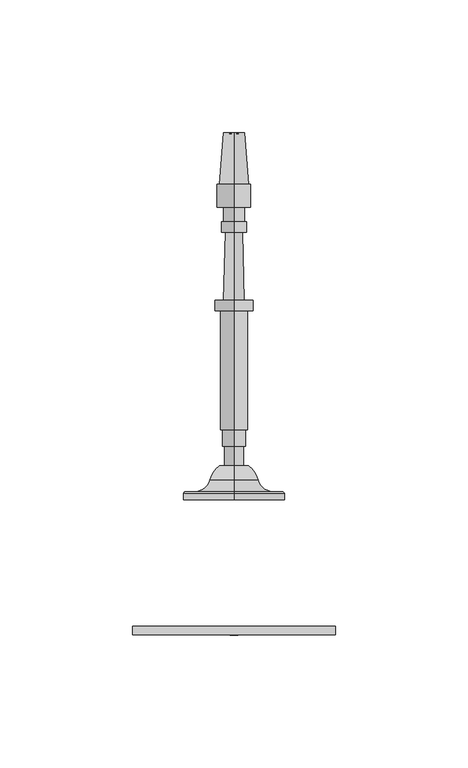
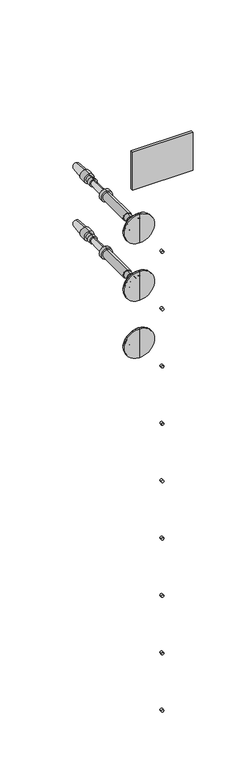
"""IFC4 building model written with IfcOpenShell, lengths in millimetres: railing geometry, RAILEASY CABLE RAILING CORNER TENSIONERS STAIR."""

from ifc_helpers import new_model, si_unit, point, frame, frame_2d, origin, place, context, project, spatial, polyline, circle_curve, ellipse_curve, trimmed, segment, composite_curve, outline, extrude, source, transform, mapped, element, save
from ifc_brep_helpers import plane_surface, cylinder_surface, revolved_surface, advanced_brep


def railing_0356c640(model_context):
    return source(origin(), model_context, "Body", "SolidModel", [
        extrude(outline(polyline([(4135.5568095, 16704.7487645), (4059.3568095, 16704.7487645), (4059.3568095, 16707.9237645), (4135.5568095, 16707.9237645), (4135.5568095, 16704.7487645)])), frame((0.0, 0.0, 33390.9789063), z_axis=(0.0, 0.0, 1.0), x_axis=(1.0, 0.0, 0.0)), (0.0, 0.0, 1.0), 50.8),
        extrude(outline(composite_curve([segment(trimmed(circle_curve(frame_2d((33295.7289062, 4097.4568095)), 1.5379197), [point((33295.7289062, 4098.9947293))], [point((33295.7289062, 4095.9188898))], False, "CARTESIAN"), True, "CONTINUOUS"), segment(trimmed(circle_curve(frame_2d((33295.7289062, 4097.4568095)), 1.5379197), [point((33295.7289062, 4095.9188898))], [point((33295.7289062, 4098.9947293))], False, "CARTESIAN"), True, "CONTINUOUS")], self_intersect=False)), frame((0.0, 16704.7487645, 0.0), z_axis=(0.0, 1.0, 0.0), x_axis=(0.0, 0.0, 1.0)), (0.0, 0.0, 1.0), 3.175),
        extrude(outline(composite_curve([segment(trimmed(circle_curve(frame_2d((33219.5289063, 4097.4568095)), 1.5379197), [point((33219.5289063, 4098.9947293))], [point((33219.5289063, 4095.9188898))], False, "CARTESIAN"), True, "CONTINUOUS"), segment(trimmed(circle_curve(frame_2d((33219.5289063, 4097.4568095)), 1.5379197), [point((33219.5289063, 4095.9188898))], [point((33219.5289063, 4098.9947293))], False, "CARTESIAN"), True, "CONTINUOUS")], self_intersect=False)), frame((0.0, 16704.7487645, 0.0), z_axis=(0.0, 1.0, 0.0), x_axis=(0.0, 0.0, 1.0)), (0.0, 0.0, 1.0), 3.175),
        extrude(outline(composite_curve([segment(trimmed(circle_curve(frame_2d((33143.3289062, 4097.4568095)), 1.5379197), [point((33143.3289062, 4098.9947293))], [point((33143.3289062, 4095.9188898))], False, "CARTESIAN"), True, "CONTINUOUS"), segment(trimmed(circle_curve(frame_2d((33143.3289062, 4097.4568095)), 1.5379197), [point((33143.3289062, 4095.9188898))], [point((33143.3289062, 4098.9947293))], False, "CARTESIAN"), True, "CONTINUOUS")], self_intersect=False)), frame((0.0, 16704.7487645, 0.0), z_axis=(0.0, 1.0, 0.0), x_axis=(0.0, 0.0, 1.0)), (0.0, 0.0, 1.0), 3.175),
        extrude(outline(composite_curve([segment(trimmed(circle_curve(frame_2d((33067.1289062, 4097.4568095)), 1.5379197), [point((33067.1289062, 4098.9947293))], [point((33067.1289062, 4095.9188898))], False, "CARTESIAN"), True, "CONTINUOUS"), segment(trimmed(circle_curve(frame_2d((33067.1289062, 4097.4568095)), 1.5379197), [point((33067.1289062, 4095.9188898))], [point((33067.1289062, 4098.9947293))], False, "CARTESIAN"), True, "CONTINUOUS")], self_intersect=False)), frame((0.0, 16704.7487645, 0.0), z_axis=(0.0, 1.0, 0.0), x_axis=(0.0, 0.0, 1.0)), (0.0, 0.0, 1.0), 3.175),
        extrude(outline(composite_curve([segment(trimmed(circle_curve(frame_2d((32990.9289062, 4097.4568095)), 1.5379197), [point((32990.9289062, 4098.9947293))], [point((32990.9289062, 4095.9188898))], False, "CARTESIAN"), True, "CONTINUOUS"), segment(trimmed(circle_curve(frame_2d((32990.9289062, 4097.4568095)), 1.5379197), [point((32990.9289062, 4095.9188898))], [point((32990.9289062, 4098.9947293))], False, "CARTESIAN"), True, "CONTINUOUS")], self_intersect=False)), frame((0.0, 16704.7487645, 0.0), z_axis=(0.0, 1.0, 0.0), x_axis=(0.0, 0.0, 1.0)), (0.0, 0.0, 1.0), 3.175),
        extrude(outline(composite_curve([segment(trimmed(circle_curve(frame_2d((32914.7289062, 4097.4568095)), 1.5379197), [point((32914.7289062, 4098.9947293))], [point((32914.7289062, 4095.9188898))], False, "CARTESIAN"), True, "CONTINUOUS"), segment(trimmed(circle_curve(frame_2d((32914.7289062, 4097.4568095)), 1.5379197), [point((32914.7289062, 4095.9188898))], [point((32914.7289062, 4098.9947293))], False, "CARTESIAN"), True, "CONTINUOUS")], self_intersect=False)), frame((0.0, 16704.7487645, 0.0), z_axis=(0.0, 1.0, 0.0), x_axis=(0.0, 0.0, 1.0)), (0.0, 0.0, 1.0), 3.175),
        extrude(outline(composite_curve([segment(trimmed(circle_curve(frame_2d((32838.5289063, 4097.4568095)), 1.5379197), [point((32838.5289063, 4098.9947293))], [point((32838.5289063, 4095.9188898))], False, "CARTESIAN"), True, "CONTINUOUS"), segment(trimmed(circle_curve(frame_2d((32838.5289063, 4097.4568095)), 1.5379197), [point((32838.5289063, 4095.9188898))], [point((32838.5289063, 4098.9947293))], False, "CARTESIAN"), True, "CONTINUOUS")], self_intersect=False)), frame((0.0, 16704.7487645, 0.0), z_axis=(0.0, 1.0, 0.0), x_axis=(0.0, 0.0, 1.0)), (0.0, 0.0, 1.0), 3.175),
        extrude(outline(composite_curve([segment(trimmed(circle_curve(frame_2d((32762.3289062, 4097.4568095)), 1.5379197), [point((32762.3289062, 4098.9947293))], [point((32762.3289062, 4095.9188898))], False, "CARTESIAN"), True, "CONTINUOUS"), segment(trimmed(circle_curve(frame_2d((32762.3289062, 4097.4568095)), 1.5379197), [point((32762.3289062, 4095.9188898))], [point((32762.3289062, 4098.9947293))], False, "CARTESIAN"), True, "CONTINUOUS")], self_intersect=False)), frame((0.0, 16704.7487645, 0.0), z_axis=(0.0, 1.0, 0.0), x_axis=(0.0, 0.0, 1.0)), (0.0, 0.0, 1.0), 3.175),
        extrude(outline(composite_curve([segment(trimmed(circle_curve(frame_2d((32686.1289062, 4097.4568095)), 1.5379197), [point((32686.1289062, 4098.9947293))], [point((32686.1289062, 4095.9188898))], False, "CARTESIAN"), True, "CONTINUOUS"), segment(trimmed(circle_curve(frame_2d((32686.1289062, 4097.4568095)), 1.5379197), [point((32686.1289062, 4095.9188898))], [point((32686.1289062, 4098.9947293))], False, "CARTESIAN"), True, "CONTINUOUS")], self_intersect=False)), frame((0.0, 16704.7487645, 0.0), z_axis=(0.0, 1.0, 0.0), x_axis=(0.0, 0.0, 1.0)), (0.0, 0.0, 1.0), 3.175),
        advanced_brep(
        [(4097.4568095, 16755.5660637, 33296.0001631), (4097.4568095, 16755.5660637, 33315.0501631), (4097.4568095, 16755.5660637, 33276.9501631), (4097.4568095, 16768.2587003, 33290.4769785), (4097.4568095, 16768.2587003, 33301.5233478), (4097.4568095, 16768.2587003, 33296.0001631), (4097.4568095, 16762.9826039, 33286.8720381), (4097.4568095, 16762.9826039, 33305.1282881), (4097.4568095, 16758.6169789, 33281.2458254), (4097.4568095, 16758.6169789, 33310.7545009), (4097.4568095, 16758.6169789, 33277.3762941), (4097.4568095, 16758.6169789, 33314.6240321), (4097.4568095, 16757.9473137, 33276.9501631), (4097.4568095, 16757.9473137, 33315.0501631)],
        [
            (0, 1),
            (1, 2, circle_curve(frame((4097.4568095, 16755.5660637, 33296.0001631), z_axis=(0.0, -1.0, 0.0), x_axis=(0.0, 0.0, 1.0)), 19.05)),
            (2, 0),
            (2, 1, circle_curve(frame((4097.4568095, 16755.5660637, 33296.0001631), z_axis=(0.0, -1.0, 0.0), x_axis=(0.0, 0.0, 1.0)), 19.05)),
            (3, 4, circle_curve(frame((4097.4568095, 16768.2587003, 33296.0001631), z_axis=(0.0, 1.0, 0.0), x_axis=(0.0, 0.0, 1.0)), 5.5231846)),
            (4, 5),
            (5, 3),
            (4, 3, circle_curve(frame((4097.4568095, 16768.2587003, 33296.0001631), z_axis=(0.0, 1.0, 0.0), x_axis=(0.0, 0.0, 1.0)), 5.5231846)),
            (6, 7, circle_curve(frame((4097.4568095, 16762.9826039, 33296.0001631), z_axis=(0.0, 1.0, 0.0), x_axis=(0.0, 0.0, 1.0)), 9.128125)),
            (7, 4, circle_curve(frame((4097.4568095, 16760.6581952, 33296.0628958), z_axis=(-1.0, 0.0, 0.0), x_axis=(0.0, 1.0, 0.0)), 9.3586438)),
            (3, 6, circle_curve(frame((4097.4568095, 16760.6581952, 33295.9374304), z_axis=(-1.0, 0.0, 0.0), x_axis=(0.0, 1.0, 0.0)), 9.3586438)),
            (7, 6, circle_curve(frame((4097.4568095, 16762.9826039, 33296.0001631), z_axis=(0.0, 1.0, 0.0), x_axis=(0.0, 0.0, 1.0)), 9.128125)),
            (8, 9, circle_curve(frame((4097.4568095, 16758.6169789, 33296.0001631), z_axis=(0.0, 1.0, 0.0), x_axis=(0.0, 0.0, 1.0)), 14.7543378)),
            (9, 7, circle_curve(frame((4097.4568095, 16764.4251909, 33310.7545009), z_axis=(1.0, 0.0, 0.0), x_axis=(0.0, 1.0, 0.0)), 5.8082121)),
            (6, 8, circle_curve(frame((4097.4568095, 16764.4251909, 33281.2458254), z_axis=(1.0, 0.0, 0.0), x_axis=(0.0, 1.0, 0.0)), 5.8082121)),
            (9, 8, circle_curve(frame((4097.4568095, 16758.6169789, 33296.0001631), z_axis=(0.0, 1.0, 0.0), x_axis=(0.0, 0.0, 1.0)), 14.7543378)),
            (10, 11, circle_curve(frame((4097.4568095, 16758.6169789, 33296.0001631), z_axis=(0.0, 1.0, 0.0), x_axis=(0.0, 0.0, 1.0)), 18.623869)),
            (11, 9),
            (8, 10),
            (11, 10, circle_curve(frame((4097.4568095, 16758.6169789, 33296.0001631), z_axis=(0.0, 1.0, 0.0), x_axis=(0.0, 0.0, 1.0)), 18.623869)),
            (12, 13, circle_curve(frame((4097.4568095, 16757.9473137, 33296.0001631), z_axis=(0.0, 1.0, 0.0), x_axis=(0.0, 0.0, 1.0)), 19.05)),
            (13, 11),
            (10, 12),
            (13, 12, circle_curve(frame((4097.4568095, 16757.9473137, 33296.0001631), z_axis=(0.0, 1.0, 0.0), x_axis=(0.0, 0.0, 1.0)), 19.05)),
            (1, 13),
            (12, 2),
        ],
        [
            plane_surface(frame((4097.4568095, 16755.5660637, 33296.0001631), z_axis=(0.0, -1.0, 0.0), x_axis=(0.0, 0.0, 1.0))),
            plane_surface(frame((4097.4568095, 16768.2587003, 33296.0001631), z_axis=(0.0, 1.0, 0.0), x_axis=(0.0, 0.0, 1.0))),
            revolved_surface(trimmed(ellipse_curve(frame((4097.4568095, 16760.6581952, 33296.0628958), z_axis=(1.0, 0.0, 0.0), x_axis=(0.0, 1.0, 0.0)), 9.3586438, 9.3586438), [point((4097.4568095, 16768.2587003, 33301.5233478))], [point((4097.4568095, 16762.9826039, 33305.1282881))], True, "CARTESIAN"), (4097.4568095, 16755.5660637, 33296.0001631), (0.0, -1.0, 0.0)),
            revolved_surface(trimmed(ellipse_curve(frame((4097.4568095, 16764.4251909, 33310.7545009), z_axis=(-1.0, 0.0, 0.0), x_axis=(0.0, 1.0, 0.0)), 5.8082121, 5.8082121), [point((4097.4568095, 16762.9826039, 33305.1282881))], [point((4097.4568095, 16758.6169789, 33310.7545009))], True, "CARTESIAN"), (4097.4568095, 16755.5660637, 33296.0001631), (0.0, -1.0, 0.0)),
            plane_surface(frame((4097.4568095, 16758.6169789, 33296.0001631), z_axis=(0.0, 1.0, 0.0), x_axis=(0.0, 0.0, 1.0))),
            revolved_surface(polyline([(4097.4568095, 16758.6169789, 33314.6240321), (4097.4568095, 16757.9473137, 33315.0501631)]), (4097.4568095, 16755.5660637, 33296.0001631), (0.0, -1.0, 0.0)),
            cylinder_surface(frame((4097.4568095, 16755.5660637, 33296.0001631), z_axis=(0.0, -1.0, 0.0), x_axis=(0.0, 0.0, 1.0)), 19.05),
        ],
        [
            (0, [[1, 2, 3]]),
            (0, [[-3, 4, -1]]),
            (1, [[5, 6, 7]]),
            (1, [[8, -7, -6]]),
            (2, [[9, 10, -5, 11]]),
            (2, [[12, -11, -8, -10]]),
            (3, [[13, 14, -9, 15]]),
            (3, [[16, -15, -12, -14]]),
            (4, [[17, 18, -13, 19]]),
            (4, [[20, -19, -16, -18]]),
            (5, [[21, 22, -17, 23]]),
            (5, [[24, -23, -20, -22]]),
            (6, [[-2, 25, -21, 26]]),
            (6, [[-4, -26, -24, -25]]),
        ],
    ),
        advanced_brep(
        [(4097.4568095, 16768.2587003, 33292.4282881), (4097.4568095, 16768.2587003, 33296.0001631), (4097.4568095, 16768.2587003, 33299.5720381), (4097.4568095, 16893.2025896, 33296.0001631), (4097.4568095, 16893.4982539, 33291.9757028), (4097.4568095, 16893.4982539, 33300.0246235), (4097.4568095, 16874.1548899, 33290.5546072), (4097.4568095, 16874.1548899, 33301.445719), (4097.4568095, 16874.1548899, 33289.6616385), (4097.4568095, 16874.1548899, 33302.3386877), (4097.4568095, 16865.5228587, 33289.6616385), (4097.4568095, 16865.5228587, 33302.3386877), (4097.4568095, 16865.5228587, 33292.0428885), (4097.4568095, 16865.5228587, 33299.9574377), (4097.4568095, 16860.1650462, 33292.0428885), (4097.4568095, 16860.1650462, 33299.9574377), (4097.4568095, 16860.1650462, 33291.2491385), (4097.4568095, 16860.1650462, 33300.7511877), (4097.4568095, 16856.0970774, 33291.2491385), (4097.4568095, 16856.0970774, 33300.7511877), (4097.4568095, 16856.0529903, 33292.8360262), (4097.4568095, 16856.0529903, 33299.1643), (4097.4568095, 16830.6627871, 33292.1306319), (4097.4568095, 16830.6627871, 33299.8696944), (4097.4568095, 16830.6627871, 33288.8564131), (4097.4568095, 16830.6627871, 33303.1439131), (4097.4568095, 16826.6940371, 33288.8564131), (4097.4568095, 16826.6940371, 33303.1439131), (4097.4568095, 16826.6940371, 33290.8407881), (4097.4568095, 16826.6940371, 33301.1595381), (4097.4568095, 16781.9463808, 33290.8407881), (4097.4568095, 16781.9463808, 33301.1595381), (4097.4568095, 16781.9463808, 33291.6345381), (4097.4568095, 16781.9463808, 33300.3657881), (4097.4568095, 16775.5963808, 33291.6345381), (4097.4568095, 16775.5963808, 33300.3657881), (4097.4568095, 16775.5963808, 33292.4282881), (4097.4568095, 16775.5963808, 33299.5720381)],
        [
            (0, 1),
            (1, 2),
            (2, 0, circle_curve(frame((4097.4568095, 16768.2587003, 33296.0001631), z_axis=(0.0, -1.0, 0.0), x_axis=(0.0, 0.0, 1.0000000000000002)), 3.571875)),
            (0, 2, circle_curve(frame((4097.4568095, 16768.2587003, 33296.0001631), z_axis=(0.0, -1.0, 0.0), x_axis=(0.0, 0.0, 1.0000000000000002)), 3.571875)),
            (3, 4),
            (4, 5, circle_curve(frame((4097.4568095, 16893.4982539, 33296.0001631), z_axis=(0.0, 1.0, 0.0), x_axis=(0.0, 0.0, 1.0000000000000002)), 4.0244604)),
            (5, 3),
            (5, 4, circle_curve(frame((4097.4568095, 16893.4982539, 33296.0001631), z_axis=(0.0, 1.0, 0.0), x_axis=(0.0, 0.0, 1.0000000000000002)), 4.0244604)),
            (4, 6),
            (6, 7, circle_curve(frame((4097.4568095, 16874.1548899, 33296.0001631), z_axis=(0.0, 1.0, 0.0), x_axis=(0.0, 0.0, 1.0000000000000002)), 5.4455559)),
            (7, 5),
            (7, 6, circle_curve(frame((4097.4568095, 16874.1548899, 33296.0001631), z_axis=(0.0, 1.0, 0.0), x_axis=(0.0, 0.0, 1.0000000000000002)), 5.4455559)),
            (6, 8),
            (8, 9, circle_curve(frame((4097.4568095, 16874.1548899, 33296.0001631), z_axis=(0.0, 1.0, 0.0), x_axis=(0.0, 0.0, 1.0000000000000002)), 6.3385246)),
            (9, 7),
            (9, 8, circle_curve(frame((4097.4568095, 16874.1548899, 33296.0001631), z_axis=(0.0, 1.0, 0.0), x_axis=(0.0, 0.0, 1.0000000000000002)), 6.3385246)),
            (8, 10),
            (10, 11, circle_curve(frame((4097.4568095, 16865.5228587, 33296.0001631), z_axis=(0.0, 1.0, 0.0), x_axis=(0.0, 0.0, 1.0000000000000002)), 6.3385246)),
            (11, 9),
            (11, 10, circle_curve(frame((4097.4568095, 16865.5228587, 33296.0001631), z_axis=(0.0, 1.0, 0.0), x_axis=(0.0, 0.0, 1.0000000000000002)), 6.3385246)),
            (10, 12),
            (12, 13, circle_curve(frame((4097.4568095, 16865.5228587, 33296.0001631), z_axis=(0.0, 1.0, 0.0), x_axis=(0.0, 0.0, 1.0000000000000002)), 3.9572746)),
            (13, 11),
            (13, 12, circle_curve(frame((4097.4568095, 16865.5228587, 33296.0001631), z_axis=(0.0, 1.0, 0.0), x_axis=(0.0, 0.0, 1.0000000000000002)), 3.9572746)),
            (12, 14),
            (14, 15, circle_curve(frame((4097.4568095, 16860.1650462, 33296.0001631), z_axis=(0.0, 1.0, 0.0), x_axis=(0.0, 0.0, 1.0000000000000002)), 3.9572746)),
            (15, 13),
            (15, 14, circle_curve(frame((4097.4568095, 16860.1650462, 33296.0001631), z_axis=(0.0, 1.0, 0.0), x_axis=(0.0, 0.0, 1.0000000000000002)), 3.9572746)),
            (14, 16),
            (16, 17, circle_curve(frame((4097.4568095, 16860.1650462, 33296.0001631), z_axis=(0.0, 1.0, 0.0), x_axis=(0.0, 0.0, 1.0000000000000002)), 4.7510246)),
            (17, 15),
            (17, 16, circle_curve(frame((4097.4568095, 16860.1650462, 33296.0001631), z_axis=(0.0, 1.0, 0.0), x_axis=(0.0, 0.0, 1.0000000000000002)), 4.7510246)),
            (16, 18),
            (18, 19, circle_curve(frame((4097.4568095, 16856.0970774, 33296.0001631), z_axis=(0.0, 1.0, 0.0), x_axis=(0.0, 0.0, 1.0000000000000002)), 4.7510246)),
            (19, 17),
            (19, 18, circle_curve(frame((4097.4568095, 16856.0970774, 33296.0001631), z_axis=(0.0, 1.0, 0.0), x_axis=(0.0, 0.0, 1.0000000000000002)), 4.7510246)),
            (18, 20),
            (20, 21, circle_curve(frame((4097.4568095, 16856.0529903, 33296.0001631), z_axis=(0.0, 1.0, 0.0), x_axis=(0.0, 0.0, 1.0000000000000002)), 3.1641369)),
            (21, 19),
            (21, 20, circle_curve(frame((4097.4568095, 16856.0529903, 33296.0001631), z_axis=(0.0, 1.0, 0.0), x_axis=(0.0, 0.0, 1.0000000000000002)), 3.1641369)),
            (20, 22),
            (22, 23, circle_curve(frame((4097.4568095, 16830.6627871, 33296.0001631), z_axis=(0.0, 1.0, 0.0), x_axis=(0.0, 0.0, 1.0000000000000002)), 3.8695313)),
            (23, 21),
            (23, 22, circle_curve(frame((4097.4568095, 16830.6627871, 33296.0001631), z_axis=(0.0, 1.0, 0.0), x_axis=(0.0, 0.0, 1.0000000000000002)), 3.8695313)),
            (22, 24),
            (24, 25, circle_curve(frame((4097.4568095, 16830.6627871, 33296.0001631), z_axis=(0.0, 1.0, 0.0), x_axis=(0.0, 0.0, 1.0000000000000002)), 7.14375)),
            (25, 23),
            (25, 24, circle_curve(frame((4097.4568095, 16830.6627871, 33296.0001631), z_axis=(0.0, 1.0, 0.0), x_axis=(0.0, 0.0, 1.0000000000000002)), 7.14375)),
            (24, 26),
            (26, 27, circle_curve(frame((4097.4568095, 16826.6940371, 33296.0001631), z_axis=(0.0, 1.0, 0.0), x_axis=(0.0, 0.0, 1.0000000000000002)), 7.14375)),
            (27, 25),
            (27, 26, circle_curve(frame((4097.4568095, 16826.6940371, 33296.0001631), z_axis=(0.0, 1.0, 0.0), x_axis=(0.0, 0.0, 1.0000000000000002)), 7.14375)),
            (26, 28),
            (28, 29, circle_curve(frame((4097.4568095, 16826.6940371, 33296.0001631), z_axis=(0.0, 1.0, 0.0), x_axis=(0.0, 0.0, 1.0000000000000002)), 5.159375)),
            (29, 27),
            (29, 28, circle_curve(frame((4097.4568095, 16826.6940371, 33296.0001631), z_axis=(0.0, 1.0, 0.0), x_axis=(0.0, 0.0, 1.0000000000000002)), 5.159375)),
            (28, 30),
            (30, 31, circle_curve(frame((4097.4568095, 16781.9463808, 33296.0001631), z_axis=(0.0, 1.0, 0.0), x_axis=(0.0, 0.0, 1.0000000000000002)), 5.159375)),
            (31, 29),
            (31, 30, circle_curve(frame((4097.4568095, 16781.9463808, 33296.0001631), z_axis=(0.0, 1.0, 0.0), x_axis=(0.0, 0.0, 1.0000000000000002)), 5.159375)),
            (30, 32),
            (32, 33, circle_curve(frame((4097.4568095, 16781.9463808, 33296.0001631), z_axis=(0.0, 1.0, 0.0), x_axis=(0.0, 0.0, 1.0000000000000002)), 4.365625)),
            (33, 31),
            (33, 32, circle_curve(frame((4097.4568095, 16781.9463808, 33296.0001631), z_axis=(0.0, 1.0, 0.0), x_axis=(0.0, 0.0, 1.0000000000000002)), 4.365625)),
            (32, 34),
            (34, 35, circle_curve(frame((4097.4568095, 16775.5963808, 33296.0001631), z_axis=(0.0, 1.0, 0.0), x_axis=(0.0, 0.0, 1.0000000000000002)), 4.365625)),
            (35, 33),
            (35, 34, circle_curve(frame((4097.4568095, 16775.5963808, 33296.0001631), z_axis=(0.0, 1.0, 0.0), x_axis=(0.0, 0.0, 1.0000000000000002)), 4.365625)),
            (34, 36),
            (36, 37, circle_curve(frame((4097.4568095, 16775.5963808, 33296.0001631), z_axis=(0.0, 1.0, 0.0), x_axis=(0.0, 0.0, 1.0000000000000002)), 3.571875)),
            (37, 35),
            (37, 36, circle_curve(frame((4097.4568095, 16775.5963808, 33296.0001631), z_axis=(0.0, 1.0, 0.0), x_axis=(0.0, 0.0, 1.0000000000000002)), 3.571875)),
            (36, 0),
            (2, 37),
        ],
        [
            plane_surface(frame((4097.4568095, 16768.2587003, 33296.0001631), z_axis=(0.0, -1.0, 0.0), x_axis=(0.0, 0.0, 1.0))),
            revolved_surface(polyline([(4097.4568095, 16893.4982539, 33300.0246235), (4097.4568095, 16893.2025896, 33296.0001631)]), (4097.4568095, 16893.2025896, 33296.0001631), (0.0, 1.0, 0.0)),
            revolved_surface(polyline([(4097.4568095, 16874.1548899, 33301.445719), (4097.4568095, 16893.4982539, 33300.0246235)]), (4097.4568095, 16893.2025896, 33296.0001631), (0.0, 1.0, 0.0)),
            plane_surface(frame((4097.4568095, 16874.1548899, 33296.0001631), z_axis=(0.0, 1.0, 0.0), x_axis=(0.0, 0.0, 1.0))),
            cylinder_surface(frame((4097.4568095, 16893.2025896, 33296.0001631), z_axis=(0.0, 1.0, 0.0), x_axis=(0.0, 0.0, 1.0000000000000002)), 6.3385246),
            plane_surface(frame((4097.4568095, 16865.5228587, 33296.0001631), z_axis=(0.0, -1.0, 0.0), x_axis=(0.0, 0.0, 1.0))),
            cylinder_surface(frame((4097.4568095, 16893.2025896, 33296.0001631), z_axis=(0.0, 1.0, 0.0), x_axis=(0.0, 0.0, 1.0000000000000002)), 3.9572746),
            plane_surface(frame((4097.4568095, 16860.1650462, 33296.0001631), z_axis=(0.0, 1.0, 0.0), x_axis=(0.0, 0.0, 1.0))),
            cylinder_surface(frame((4097.4568095, 16893.2025896, 33296.0001631), z_axis=(0.0, 1.0, 0.0), x_axis=(0.0, 0.0, 1.0000000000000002)), 4.7510246),
            plane_surface(frame((4097.4568095, 16856.0529903, 33296.0001631), z_axis=(0.0, -1.0, 0.0), x_axis=(0.0, 0.0, 1.0))),
            revolved_surface(polyline([(4097.4568095, 16830.6627871, 33299.8696944), (4097.4568095, 16856.0529903, 33299.1643)]), (4097.4568095, 16893.2025896, 33296.0001631), (0.0, 1.0, 0.0)),
            plane_surface(frame((4097.4568095, 16830.6627871, 33296.0001631), z_axis=(0.0, 1.0, 0.0), x_axis=(0.0, 0.0, 1.0))),
            cylinder_surface(frame((4097.4568095, 16893.2025896, 33296.0001631), z_axis=(0.0, 1.0, 0.0), x_axis=(0.0, 0.0, 1.0000000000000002)), 7.14375),
            plane_surface(frame((4097.4568095, 16826.6940371, 33296.0001631), z_axis=(0.0, -1.0, 0.0), x_axis=(0.0, 0.0, 1.0))),
            cylinder_surface(frame((4097.4568095, 16893.2025896, 33296.0001631), z_axis=(0.0, 1.0, 0.0), x_axis=(0.0, 0.0, 1.0000000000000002)), 5.159375),
            plane_surface(frame((4097.4568095, 16781.9463808, 33296.0001631), z_axis=(0.0, -1.0, 0.0), x_axis=(0.0, 0.0, 1.0))),
            cylinder_surface(frame((4097.4568095, 16893.2025896, 33296.0001631), z_axis=(0.0, 1.0, 0.0), x_axis=(0.0, 0.0, 1.0000000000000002)), 4.365625),
            plane_surface(frame((4097.4568095, 16775.5963808, 33296.0001631), z_axis=(0.0, -1.0, 0.0), x_axis=(0.0, 0.0, 1.0))),
            cylinder_surface(frame((4097.4568095, 16893.2025896, 33296.0001631), z_axis=(0.0, 1.0, 0.0), x_axis=(0.0, 0.0, 1.0000000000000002)), 3.571875),
        ],
        [
            (0, [[1, 2, 3]]),
            (0, [[-2, -1, 4]]),
            (1, [[5, 6, 7]]),
            (1, [[-7, 8, -5]]),
            (2, [[9, 10, 11, -6]]),
            (2, [[-11, 12, -9, -8]]),
            (3, [[13, 14, 15, -10]]),
            (3, [[-15, 16, -13, -12]]),
            (4, [[17, 18, 19, -14]]),
            (4, [[-19, 20, -17, -16]]),
            (5, [[21, 22, 23, -18]]),
            (5, [[-23, 24, -21, -20]]),
            (6, [[25, 26, 27, -22]]),
            (6, [[-27, 28, -25, -24]]),
            (7, [[29, 30, 31, -26]]),
            (7, [[-31, 32, -29, -28]]),
            (8, [[33, 34, 35, -30]]),
            (8, [[-35, 36, -33, -32]]),
            (9, [[37, 38, 39, -34]]),
            (9, [[-39, 40, -37, -36]]),
            (10, [[41, 42, 43, -38]]),
            (10, [[-43, 44, -41, -40]]),
            (11, [[45, 46, 47, -42]]),
            (11, [[-47, 48, -45, -44]]),
            (12, [[49, 50, 51, -46]]),
            (12, [[-51, 52, -49, -48]]),
            (13, [[53, 54, 55, -50]]),
            (13, [[-55, 56, -53, -52]]),
            (14, [[57, 58, 59, -54]]),
            (14, [[-59, 60, -57, -56]]),
            (15, [[61, 62, 63, -58]]),
            (15, [[-63, 64, -61, -60]]),
            (16, [[65, 66, 67, -62]]),
            (16, [[-67, 68, -65, -64]]),
            (17, [[69, 70, 71, -66]]),
            (17, [[-71, 72, -69, -68]]),
            (18, [[73, -3, 74, -70]]),
            (18, [[-74, -4, -73, -72]]),
        ],
    ),
        advanced_brep(
        [(4097.4568095, 16755.5660637, 33219.8001631), (4097.4568095, 16755.5660637, 33238.8501631), (4097.4568095, 16755.5660637, 33200.7501631), (4097.4568095, 16768.2587003, 33214.2769785), (4097.4568095, 16768.2587003, 33225.3233478), (4097.4568095, 16768.2587003, 33219.8001631), (4097.4568095, 16762.9826039, 33210.6720381), (4097.4568095, 16762.9826039, 33228.9282881), (4097.4568095, 16758.6169789, 33205.0458254), (4097.4568095, 16758.6169789, 33234.5545009), (4097.4568095, 16758.6169789, 33201.1762941), (4097.4568095, 16758.6169789, 33238.4240321), (4097.4568095, 16757.9473137, 33200.7501631), (4097.4568095, 16757.9473137, 33238.8501631)],
        [
            (0, 1),
            (1, 2, circle_curve(frame((4097.4568095, 16755.5660637, 33219.8001631), z_axis=(0.0, -1.0, 0.0), x_axis=(0.0, 0.0, 1.0)), 19.05)),
            (2, 0),
            (2, 1, circle_curve(frame((4097.4568095, 16755.5660637, 33219.8001631), z_axis=(0.0, -1.0, 0.0), x_axis=(0.0, 0.0, 1.0)), 19.05)),
            (3, 4, circle_curve(frame((4097.4568095, 16768.2587003, 33219.8001631), z_axis=(0.0, 1.0, 0.0), x_axis=(0.0, 0.0, 1.0)), 5.5231846)),
            (4, 5),
            (5, 3),
            (4, 3, circle_curve(frame((4097.4568095, 16768.2587003, 33219.8001631), z_axis=(0.0, 1.0, 0.0), x_axis=(0.0, 0.0, 1.0)), 5.5231846)),
            (6, 7, circle_curve(frame((4097.4568095, 16762.9826039, 33219.8001631), z_axis=(0.0, 1.0, 0.0), x_axis=(0.0, 0.0, 1.0)), 9.128125)),
            (7, 4, circle_curve(frame((4097.4568095, 16760.6581952, 33219.8628958), z_axis=(-1.0, 0.0, 0.0), x_axis=(0.0, 1.0, 0.0)), 9.3586438)),
            (3, 6, circle_curve(frame((4097.4568095, 16760.6581952, 33219.7374304), z_axis=(-1.0, 0.0, 0.0), x_axis=(0.0, 1.0, 0.0)), 9.3586438)),
            (7, 6, circle_curve(frame((4097.4568095, 16762.9826039, 33219.8001631), z_axis=(0.0, 1.0, 0.0), x_axis=(0.0, 0.0, 1.0)), 9.128125)),
            (8, 9, circle_curve(frame((4097.4568095, 16758.6169789, 33219.8001631), z_axis=(0.0, 1.0, 0.0), x_axis=(0.0, 0.0, 1.0)), 14.7543378)),
            (9, 7, circle_curve(frame((4097.4568095, 16764.4251909, 33234.5545009), z_axis=(1.0, 0.0, 0.0), x_axis=(0.0, 1.0, 0.0)), 5.8082121)),
            (6, 8, circle_curve(frame((4097.4568095, 16764.4251909, 33205.0458254), z_axis=(1.0, 0.0, 0.0), x_axis=(0.0, 1.0, 0.0)), 5.8082121)),
            (9, 8, circle_curve(frame((4097.4568095, 16758.6169789, 33219.8001631), z_axis=(0.0, 1.0, 0.0), x_axis=(0.0, 0.0, 1.0)), 14.7543378)),
            (10, 11, circle_curve(frame((4097.4568095, 16758.6169789, 33219.8001631), z_axis=(0.0, 1.0, 0.0), x_axis=(0.0, 0.0, 1.0)), 18.623869)),
            (11, 9),
            (8, 10),
            (11, 10, circle_curve(frame((4097.4568095, 16758.6169789, 33219.8001631), z_axis=(0.0, 1.0, 0.0), x_axis=(0.0, 0.0, 1.0)), 18.623869)),
            (12, 13, circle_curve(frame((4097.4568095, 16757.9473137, 33219.8001631), z_axis=(0.0, 1.0, 0.0), x_axis=(0.0, 0.0, 1.0)), 19.05)),
            (13, 11),
            (10, 12),
            (13, 12, circle_curve(frame((4097.4568095, 16757.9473137, 33219.8001631), z_axis=(0.0, 1.0, 0.0), x_axis=(0.0, 0.0, 1.0)), 19.05)),
            (1, 13),
            (12, 2),
        ],
        [
            plane_surface(frame((4097.4568095, 16755.5660637, 33219.8001631), z_axis=(0.0, -1.0, 0.0), x_axis=(0.0, 0.0, 1.0))),
            plane_surface(frame((4097.4568095, 16768.2587003, 33219.8001631), z_axis=(0.0, 1.0, 0.0), x_axis=(0.0, 0.0, 1.0))),
            revolved_surface(trimmed(ellipse_curve(frame((4097.4568095, 16760.6581952, 33219.8628958), z_axis=(1.0, 0.0, 0.0), x_axis=(0.0, 1.0, 0.0)), 9.3586438, 9.3586438), [point((4097.4568095, 16768.2587003, 33225.3233478))], [point((4097.4568095, 16762.9826039, 33228.9282881))], True, "CARTESIAN"), (4097.4568095, 16755.5660637, 33219.8001631), (0.0, -1.0, 0.0)),
            revolved_surface(trimmed(ellipse_curve(frame((4097.4568095, 16764.4251909, 33234.5545009), z_axis=(-1.0, 0.0, 0.0), x_axis=(0.0, 1.0, 0.0)), 5.8082121, 5.8082121), [point((4097.4568095, 16762.9826039, 33228.9282881))], [point((4097.4568095, 16758.6169789, 33234.5545009))], True, "CARTESIAN"), (4097.4568095, 16755.5660637, 33219.8001631), (0.0, -1.0, 0.0)),
            plane_surface(frame((4097.4568095, 16758.6169789, 33219.8001631), z_axis=(0.0, 1.0, 0.0), x_axis=(0.0, 0.0, 1.0))),
            revolved_surface(polyline([(4097.4568095, 16758.6169789, 33238.4240321), (4097.4568095, 16757.9473137, 33238.8501631)]), (4097.4568095, 16755.5660637, 33219.8001631), (0.0, -1.0, 0.0)),
            cylinder_surface(frame((4097.4568095, 16755.5660637, 33219.8001631), z_axis=(0.0, -1.0, 0.0), x_axis=(0.0, 0.0, 1.0)), 19.05),
        ],
        [
            (0, [[1, 2, 3]]),
            (0, [[-3, 4, -1]]),
            (1, [[5, 6, 7]]),
            (1, [[8, -7, -6]]),
            (2, [[9, 10, -5, 11]]),
            (2, [[12, -11, -8, -10]]),
            (3, [[13, 14, -9, 15]]),
            (3, [[16, -15, -12, -14]]),
            (4, [[17, 18, -13, 19]]),
            (4, [[20, -19, -16, -18]]),
            (5, [[21, 22, -17, 23]]),
            (5, [[24, -23, -20, -22]]),
            (6, [[-2, 25, -21, 26]]),
            (6, [[-4, -26, -24, -25]]),
        ],
    ),
        advanced_brep(
        [(4097.4568095, 16768.2587003, 33216.2282881), (4097.4568095, 16768.2587003, 33219.8001631), (4097.4568095, 16768.2587003, 33223.3720381), (4097.4568095, 16893.2025896, 33219.8001631), (4097.4568095, 16893.4982539, 33215.7757028), (4097.4568095, 16893.4982539, 33223.8246235), (4097.4568095, 16874.1548899, 33214.3546072), (4097.4568095, 16874.1548899, 33225.245719), (4097.4568095, 16874.1548899, 33213.4616385), (4097.4568095, 16874.1548899, 33226.1386877), (4097.4568095, 16865.5228587, 33213.4616385), (4097.4568095, 16865.5228587, 33226.1386877), (4097.4568095, 16865.5228587, 33215.8428885), (4097.4568095, 16865.5228587, 33223.7574377), (4097.4568095, 16860.1650462, 33215.8428885), (4097.4568095, 16860.1650462, 33223.7574377), (4097.4568095, 16860.1650462, 33215.0491385), (4097.4568095, 16860.1650462, 33224.5511877), (4097.4568095, 16856.0970774, 33215.0491385), (4097.4568095, 16856.0970774, 33224.5511877), (4097.4568095, 16856.0529903, 33216.6360262), (4097.4568095, 16856.0529903, 33222.9643), (4097.4568095, 16830.6627871, 33215.9306319), (4097.4568095, 16830.6627871, 33223.6696944), (4097.4568095, 16830.6627871, 33212.6564131), (4097.4568095, 16830.6627871, 33226.9439131), (4097.4568095, 16826.6940371, 33212.6564131), (4097.4568095, 16826.6940371, 33226.9439131), (4097.4568095, 16826.6940371, 33214.6407881), (4097.4568095, 16826.6940371, 33224.9595381), (4097.4568095, 16781.9463808, 33214.6407881), (4097.4568095, 16781.9463808, 33224.9595381), (4097.4568095, 16781.9463808, 33215.4345381), (4097.4568095, 16781.9463808, 33224.1657881), (4097.4568095, 16775.5963808, 33215.4345381), (4097.4568095, 16775.5963808, 33224.1657881), (4097.4568095, 16775.5963808, 33216.2282881), (4097.4568095, 16775.5963808, 33223.3720381)],
        [
            (0, 1),
            (1, 2),
            (2, 0, circle_curve(frame((4097.4568095, 16768.2587003, 33219.8001631), z_axis=(0.0, -1.0, 0.0), x_axis=(0.0, 0.0, 1.0000000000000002)), 3.571875)),
            (0, 2, circle_curve(frame((4097.4568095, 16768.2587003, 33219.8001631), z_axis=(0.0, -1.0, 0.0), x_axis=(0.0, 0.0, 1.0000000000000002)), 3.571875)),
            (3, 4),
            (4, 5, circle_curve(frame((4097.4568095, 16893.4982539, 33219.8001631), z_axis=(0.0, 1.0, 0.0), x_axis=(0.0, 0.0, 1.0000000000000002)), 4.0244604)),
            (5, 3),
            (5, 4, circle_curve(frame((4097.4568095, 16893.4982539, 33219.8001631), z_axis=(0.0, 1.0, 0.0), x_axis=(0.0, 0.0, 1.0000000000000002)), 4.0244604)),
            (4, 6),
            (6, 7, circle_curve(frame((4097.4568095, 16874.1548899, 33219.8001631), z_axis=(0.0, 1.0, 0.0), x_axis=(0.0, 0.0, 1.0000000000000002)), 5.4455559)),
            (7, 5),
            (7, 6, circle_curve(frame((4097.4568095, 16874.1548899, 33219.8001631), z_axis=(0.0, 1.0, 0.0), x_axis=(0.0, 0.0, 1.0000000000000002)), 5.4455559)),
            (6, 8),
            (8, 9, circle_curve(frame((4097.4568095, 16874.1548899, 33219.8001631), z_axis=(0.0, 1.0, 0.0), x_axis=(0.0, 0.0, 1.0000000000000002)), 6.3385246)),
            (9, 7),
            (9, 8, circle_curve(frame((4097.4568095, 16874.1548899, 33219.8001631), z_axis=(0.0, 1.0, 0.0), x_axis=(0.0, 0.0, 1.0000000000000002)), 6.3385246)),
            (8, 10),
            (10, 11, circle_curve(frame((4097.4568095, 16865.5228587, 33219.8001631), z_axis=(0.0, 1.0, 0.0), x_axis=(0.0, 0.0, 1.0000000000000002)), 6.3385246)),
            (11, 9),
            (11, 10, circle_curve(frame((4097.4568095, 16865.5228587, 33219.8001631), z_axis=(0.0, 1.0, 0.0), x_axis=(0.0, 0.0, 1.0000000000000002)), 6.3385246)),
            (10, 12),
            (12, 13, circle_curve(frame((4097.4568095, 16865.5228587, 33219.8001631), z_axis=(0.0, 1.0, 0.0), x_axis=(0.0, 0.0, 1.0000000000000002)), 3.9572746)),
            (13, 11),
            (13, 12, circle_curve(frame((4097.4568095, 16865.5228587, 33219.8001631), z_axis=(0.0, 1.0, 0.0), x_axis=(0.0, 0.0, 1.0000000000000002)), 3.9572746)),
            (12, 14),
            (14, 15, circle_curve(frame((4097.4568095, 16860.1650462, 33219.8001631), z_axis=(0.0, 1.0, 0.0), x_axis=(0.0, 0.0, 1.0000000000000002)), 3.9572746)),
            (15, 13),
            (15, 14, circle_curve(frame((4097.4568095, 16860.1650462, 33219.8001631), z_axis=(0.0, 1.0, 0.0), x_axis=(0.0, 0.0, 1.0000000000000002)), 3.9572746)),
            (14, 16),
            (16, 17, circle_curve(frame((4097.4568095, 16860.1650462, 33219.8001631), z_axis=(0.0, 1.0, 0.0), x_axis=(0.0, 0.0, 1.0000000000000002)), 4.7510246)),
            (17, 15),
            (17, 16, circle_curve(frame((4097.4568095, 16860.1650462, 33219.8001631), z_axis=(0.0, 1.0, 0.0), x_axis=(0.0, 0.0, 1.0000000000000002)), 4.7510246)),
            (16, 18),
            (18, 19, circle_curve(frame((4097.4568095, 16856.0970774, 33219.8001631), z_axis=(0.0, 1.0, 0.0), x_axis=(0.0, 0.0, 1.0000000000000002)), 4.7510246)),
            (19, 17),
            (19, 18, circle_curve(frame((4097.4568095, 16856.0970774, 33219.8001631), z_axis=(0.0, 1.0, 0.0), x_axis=(0.0, 0.0, 1.0000000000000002)), 4.7510246)),
            (18, 20),
            (20, 21, circle_curve(frame((4097.4568095, 16856.0529903, 33219.8001631), z_axis=(0.0, 1.0, 0.0), x_axis=(0.0, 0.0, 1.0000000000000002)), 3.1641369)),
            (21, 19),
            (21, 20, circle_curve(frame((4097.4568095, 16856.0529903, 33219.8001631), z_axis=(0.0, 1.0, 0.0), x_axis=(0.0, 0.0, 1.0000000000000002)), 3.1641369)),
            (20, 22),
            (22, 23, circle_curve(frame((4097.4568095, 16830.6627871, 33219.8001631), z_axis=(0.0, 1.0, 0.0), x_axis=(0.0, 0.0, 1.0000000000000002)), 3.8695313)),
            (23, 21),
            (23, 22, circle_curve(frame((4097.4568095, 16830.6627871, 33219.8001631), z_axis=(0.0, 1.0, 0.0), x_axis=(0.0, 0.0, 1.0000000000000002)), 3.8695313)),
            (22, 24),
            (24, 25, circle_curve(frame((4097.4568095, 16830.6627871, 33219.8001631), z_axis=(0.0, 1.0, 0.0), x_axis=(0.0, 0.0, 1.0000000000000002)), 7.14375)),
            (25, 23),
            (25, 24, circle_curve(frame((4097.4568095, 16830.6627871, 33219.8001631), z_axis=(0.0, 1.0, 0.0), x_axis=(0.0, 0.0, 1.0000000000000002)), 7.14375)),
            (24, 26),
            (26, 27, circle_curve(frame((4097.4568095, 16826.6940371, 33219.8001631), z_axis=(0.0, 1.0, 0.0), x_axis=(0.0, 0.0, 1.0000000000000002)), 7.14375)),
            (27, 25),
            (27, 26, circle_curve(frame((4097.4568095, 16826.6940371, 33219.8001631), z_axis=(0.0, 1.0, 0.0), x_axis=(0.0, 0.0, 1.0000000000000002)), 7.14375)),
            (26, 28),
            (28, 29, circle_curve(frame((4097.4568095, 16826.6940371, 33219.8001631), z_axis=(0.0, 1.0, 0.0), x_axis=(0.0, 0.0, 1.0000000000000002)), 5.159375)),
            (29, 27),
            (29, 28, circle_curve(frame((4097.4568095, 16826.6940371, 33219.8001631), z_axis=(0.0, 1.0, 0.0), x_axis=(0.0, 0.0, 1.0000000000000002)), 5.159375)),
            (28, 30),
            (30, 31, circle_curve(frame((4097.4568095, 16781.9463808, 33219.8001631), z_axis=(0.0, 1.0, 0.0), x_axis=(0.0, 0.0, 1.0000000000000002)), 5.159375)),
            (31, 29),
            (31, 30, circle_curve(frame((4097.4568095, 16781.9463808, 33219.8001631), z_axis=(0.0, 1.0, 0.0), x_axis=(0.0, 0.0, 1.0000000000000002)), 5.159375)),
            (30, 32),
            (32, 33, circle_curve(frame((4097.4568095, 16781.9463808, 33219.8001631), z_axis=(0.0, 1.0, 0.0), x_axis=(0.0, 0.0, 1.0000000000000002)), 4.365625)),
            (33, 31),
            (33, 32, circle_curve(frame((4097.4568095, 16781.9463808, 33219.8001631), z_axis=(0.0, 1.0, 0.0), x_axis=(0.0, 0.0, 1.0000000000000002)), 4.365625)),
            (32, 34),
            (34, 35, circle_curve(frame((4097.4568095, 16775.5963808, 33219.8001631), z_axis=(0.0, 1.0, 0.0), x_axis=(0.0, 0.0, 1.0000000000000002)), 4.365625)),
            (35, 33),
            (35, 34, circle_curve(frame((4097.4568095, 16775.5963808, 33219.8001631), z_axis=(0.0, 1.0, 0.0), x_axis=(0.0, 0.0, 1.0000000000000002)), 4.365625)),
            (34, 36),
            (36, 37, circle_curve(frame((4097.4568095, 16775.5963808, 33219.8001631), z_axis=(0.0, 1.0, 0.0), x_axis=(0.0, 0.0, 1.0000000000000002)), 3.571875)),
            (37, 35),
            (37, 36, circle_curve(frame((4097.4568095, 16775.5963808, 33219.8001631), z_axis=(0.0, 1.0, 0.0), x_axis=(0.0, 0.0, 1.0000000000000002)), 3.571875)),
            (36, 0),
            (2, 37),
        ],
        [
            plane_surface(frame((4097.4568095, 16768.2587003, 33219.8001631), z_axis=(0.0, -1.0, 0.0), x_axis=(0.0, 0.0, 1.0))),
            revolved_surface(polyline([(4097.4568095, 16893.4982539, 33223.8246235), (4097.4568095, 16893.2025896, 33219.8001631)]), (4097.4568095, 16893.2025896, 33219.8001631), (0.0, 1.0, 0.0)),
            revolved_surface(polyline([(4097.4568095, 16874.1548899, 33225.245719), (4097.4568095, 16893.4982539, 33223.8246235)]), (4097.4568095, 16893.2025896, 33219.8001631), (0.0, 1.0, 0.0)),
            plane_surface(frame((4097.4568095, 16874.1548899, 33219.8001631), z_axis=(0.0, 1.0, 0.0), x_axis=(0.0, 0.0, 1.0))),
            cylinder_surface(frame((4097.4568095, 16893.2025896, 33219.8001631), z_axis=(0.0, 1.0, 0.0), x_axis=(0.0, 0.0, 1.0000000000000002)), 6.3385246),
            plane_surface(frame((4097.4568095, 16865.5228587, 33219.8001631), z_axis=(0.0, -1.0, 0.0), x_axis=(0.0, 0.0, 1.0))),
            cylinder_surface(frame((4097.4568095, 16893.2025896, 33219.8001631), z_axis=(0.0, 1.0, 0.0), x_axis=(0.0, 0.0, 1.0000000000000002)), 3.9572746),
            plane_surface(frame((4097.4568095, 16860.1650462, 33219.8001631), z_axis=(0.0, 1.0, 0.0), x_axis=(0.0, 0.0, 1.0))),
            cylinder_surface(frame((4097.4568095, 16893.2025896, 33219.8001631), z_axis=(0.0, 1.0, 0.0), x_axis=(0.0, 0.0, 1.0000000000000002)), 4.7510246),
            plane_surface(frame((4097.4568095, 16856.0529903, 33219.8001631), z_axis=(0.0, -1.0, 0.0), x_axis=(0.0, 0.0, 1.0))),
            revolved_surface(polyline([(4097.4568095, 16830.6627871, 33223.6696944), (4097.4568095, 16856.0529903, 33222.9643)]), (4097.4568095, 16893.2025896, 33219.8001631), (0.0, 1.0, 0.0)),
            plane_surface(frame((4097.4568095, 16830.6627871, 33219.8001631), z_axis=(0.0, 1.0, 0.0), x_axis=(0.0, 0.0, 1.0))),
            cylinder_surface(frame((4097.4568095, 16893.2025896, 33219.8001631), z_axis=(0.0, 1.0, 0.0), x_axis=(0.0, 0.0, 1.0000000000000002)), 7.14375),
            plane_surface(frame((4097.4568095, 16826.6940371, 33219.8001631), z_axis=(0.0, -1.0, 0.0), x_axis=(0.0, 0.0, 1.0))),
            cylinder_surface(frame((4097.4568095, 16893.2025896, 33219.8001631), z_axis=(0.0, 1.0, 0.0), x_axis=(0.0, 0.0, 1.0000000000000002)), 5.159375),
            plane_surface(frame((4097.4568095, 16781.9463808, 33219.8001631), z_axis=(0.0, -1.0, 0.0), x_axis=(0.0, 0.0, 1.0))),
            cylinder_surface(frame((4097.4568095, 16893.2025896, 33219.8001631), z_axis=(0.0, 1.0, 0.0), x_axis=(0.0, 0.0, 1.0000000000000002)), 4.365625),
            plane_surface(frame((4097.4568095, 16775.5963808, 33219.8001631), z_axis=(0.0, -1.0, 0.0), x_axis=(0.0, 0.0, 1.0))),
            cylinder_surface(frame((4097.4568095, 16893.2025896, 33219.8001631), z_axis=(0.0, 1.0, 0.0), x_axis=(0.0, 0.0, 1.0000000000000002)), 3.571875),
        ],
        [
            (0, [[1, 2, 3]]),
            (0, [[-2, -1, 4]]),
            (1, [[5, 6, 7]]),
            (1, [[-7, 8, -5]]),
            (2, [[9, 10, 11, -6]]),
            (2, [[-11, 12, -9, -8]]),
            (3, [[13, 14, 15, -10]]),
            (3, [[-15, 16, -13, -12]]),
            (4, [[17, 18, 19, -14]]),
            (4, [[-19, 20, -17, -16]]),
            (5, [[21, 22, 23, -18]]),
            (5, [[-23, 24, -21, -20]]),
            (6, [[25, 26, 27, -22]]),
            (6, [[-27, 28, -25, -24]]),
            (7, [[29, 30, 31, -26]]),
            (7, [[-31, 32, -29, -28]]),
            (8, [[33, 34, 35, -30]]),
            (8, [[-35, 36, -33, -32]]),
            (9, [[37, 38, 39, -34]]),
            (9, [[-39, 40, -37, -36]]),
            (10, [[41, 42, 43, -38]]),
            (10, [[-43, 44, -41, -40]]),
            (11, [[45, 46, 47, -42]]),
            (11, [[-47, 48, -45, -44]]),
            (12, [[49, 50, 51, -46]]),
            (12, [[-51, 52, -49, -48]]),
            (13, [[53, 54, 55, -50]]),
            (13, [[-55, 56, -53, -52]]),
            (14, [[57, 58, 59, -54]]),
            (14, [[-59, 60, -57, -56]]),
            (15, [[61, 62, 63, -58]]),
            (15, [[-63, 64, -61, -60]]),
            (16, [[65, 66, 67, -62]]),
            (16, [[-67, 68, -65, -64]]),
            (17, [[69, 70, 71, -66]]),
            (17, [[-71, 72, -69, -68]]),
            (18, [[73, -3, 74, -70]]),
            (18, [[-74, -4, -73, -72]]),
        ],
    ),
        advanced_brep(
        [(4097.4568095, 16755.5660637, 33143.6001631), (4097.4568095, 16755.5660637, 33162.6501631), (4097.4568095, 16755.5660637, 33124.5501631), (4097.4568095, 16768.2587003, 33138.0769785), (4097.4568095, 16768.2587003, 33149.1233478), (4097.4568095, 16768.2587003, 33143.6001631), (4097.4568095, 16762.9826039, 33134.4720381), (4097.4568095, 16762.9826039, 33152.7282881), (4097.4568095, 16758.6169789, 33128.8458254), (4097.4568095, 16758.6169789, 33158.3545009), (4097.4568095, 16758.6169789, 33124.9762941), (4097.4568095, 16758.6169789, 33162.2240321), (4097.4568095, 16757.9473137, 33124.5501631), (4097.4568095, 16757.9473137, 33162.6501631)],
        [
            (0, 1),
            (1, 2, circle_curve(frame((4097.4568095, 16755.5660637, 33143.6001631), z_axis=(0.0, -1.0, 0.0), x_axis=(0.0, 0.0, 1.0)), 19.05)),
            (2, 0),
            (2, 1, circle_curve(frame((4097.4568095, 16755.5660637, 33143.6001631), z_axis=(0.0, -1.0, 0.0), x_axis=(0.0, 0.0, 1.0)), 19.05)),
            (3, 4, circle_curve(frame((4097.4568095, 16768.2587003, 33143.6001631), z_axis=(0.0, 1.0, 0.0), x_axis=(0.0, 0.0, 1.0)), 5.5231846)),
            (4, 5),
            (5, 3),
            (4, 3, circle_curve(frame((4097.4568095, 16768.2587003, 33143.6001631), z_axis=(0.0, 1.0, 0.0), x_axis=(0.0, 0.0, 1.0)), 5.5231846)),
            (6, 7, circle_curve(frame((4097.4568095, 16762.9826039, 33143.6001631), z_axis=(0.0, 1.0, 0.0), x_axis=(0.0, 0.0, 1.0)), 9.128125)),
            (7, 4, circle_curve(frame((4097.4568095, 16760.6581952, 33143.6628958), z_axis=(-1.0, 0.0, 0.0), x_axis=(0.0, 1.0, 0.0)), 9.3586438)),
            (3, 6, circle_curve(frame((4097.4568095, 16760.6581952, 33143.5374304), z_axis=(-1.0, 0.0, 0.0), x_axis=(0.0, 1.0, 0.0)), 9.3586438)),
            (7, 6, circle_curve(frame((4097.4568095, 16762.9826039, 33143.6001631), z_axis=(0.0, 1.0, 0.0), x_axis=(0.0, 0.0, 1.0)), 9.128125)),
            (8, 9, circle_curve(frame((4097.4568095, 16758.6169789, 33143.6001631), z_axis=(0.0, 1.0, 0.0), x_axis=(0.0, 0.0, 1.0)), 14.7543378)),
            (9, 7, circle_curve(frame((4097.4568095, 16764.4251909, 33158.3545009), z_axis=(1.0, 0.0, 0.0), x_axis=(0.0, 1.0, 0.0)), 5.8082121)),
            (6, 8, circle_curve(frame((4097.4568095, 16764.4251909, 33128.8458254), z_axis=(1.0, 0.0, 0.0), x_axis=(0.0, 1.0, 0.0)), 5.8082121)),
            (9, 8, circle_curve(frame((4097.4568095, 16758.6169789, 33143.6001631), z_axis=(0.0, 1.0, 0.0), x_axis=(0.0, 0.0, 1.0)), 14.7543378)),
            (10, 11, circle_curve(frame((4097.4568095, 16758.6169789, 33143.6001631), z_axis=(0.0, 1.0, 0.0), x_axis=(0.0, 0.0, 1.0)), 18.623869)),
            (11, 9),
            (8, 10),
            (11, 10, circle_curve(frame((4097.4568095, 16758.6169789, 33143.6001631), z_axis=(0.0, 1.0, 0.0), x_axis=(0.0, 0.0, 1.0)), 18.623869)),
            (12, 13, circle_curve(frame((4097.4568095, 16757.9473137, 33143.6001631), z_axis=(0.0, 1.0, 0.0), x_axis=(0.0, 0.0, 1.0)), 19.05)),
            (13, 11),
            (10, 12),
            (13, 12, circle_curve(frame((4097.4568095, 16757.9473137, 33143.6001631), z_axis=(0.0, 1.0, 0.0), x_axis=(0.0, 0.0, 1.0)), 19.05)),
            (1, 13),
            (12, 2),
        ],
        [
            plane_surface(frame((4097.4568095, 16755.5660637, 33143.6001631), z_axis=(0.0, -1.0, 0.0), x_axis=(0.0, 0.0, 1.0))),
            plane_surface(frame((4097.4568095, 16768.2587003, 33143.6001631), z_axis=(0.0, 1.0, 0.0), x_axis=(0.0, 0.0, 1.0))),
            revolved_surface(trimmed(ellipse_curve(frame((4097.4568095, 16760.6581952, 33143.6628958), z_axis=(1.0, 0.0, 0.0), x_axis=(0.0, 1.0, 0.0)), 9.3586438, 9.3586438), [point((4097.4568095, 16768.2587003, 33149.1233478))], [point((4097.4568095, 16762.9826039, 33152.7282881))], True, "CARTESIAN"), (4097.4568095, 16755.5660637, 33143.6001631), (0.0, -1.0, 0.0)),
            revolved_surface(trimmed(ellipse_curve(frame((4097.4568095, 16764.4251909, 33158.3545009), z_axis=(-1.0, 0.0, 0.0), x_axis=(0.0, 1.0, 0.0)), 5.8082121, 5.8082121), [point((4097.4568095, 16762.9826039, 33152.7282881))], [point((4097.4568095, 16758.6169789, 33158.3545009))], True, "CARTESIAN"), (4097.4568095, 16755.5660637, 33143.6001631), (0.0, -1.0, 0.0)),
            plane_surface(frame((4097.4568095, 16758.6169789, 33143.6001631), z_axis=(0.0, 1.0, 0.0), x_axis=(0.0, 0.0, 1.0))),
            revolved_surface(polyline([(4097.4568095, 16758.6169789, 33162.2240321), (4097.4568095, 16757.9473137, 33162.6501631)]), (4097.4568095, 16755.5660637, 33143.6001631), (0.0, -1.0, 0.0)),
            cylinder_surface(frame((4097.4568095, 16755.5660637, 33143.6001631), z_axis=(0.0, -1.0, 0.0), x_axis=(0.0, 0.0, 1.0)), 19.05),
        ],
        [
            (0, [[1, 2, 3]]),
            (0, [[-3, 4, -1]]),
            (1, [[5, 6, 7]]),
            (1, [[8, -7, -6]]),
            (2, [[9, 10, -5, 11]]),
            (2, [[12, -11, -8, -10]]),
            (3, [[13, 14, -9, 15]]),
            (3, [[16, -15, -12, -14]]),
            (4, [[17, 18, -13, 19]]),
            (4, [[20, -19, -16, -18]]),
            (5, [[21, 22, -17, 23]]),
            (5, [[24, -23, -20, -22]]),
            (6, [[-2, 25, -21, 26]]),
            (6, [[-4, -26, -24, -25]]),
        ],
    ),
    ])


if __name__ == "__main__":
    model = new_model("IFC4")
    model_context = context("Model", 3, world=origin())
    ifc_project = project(units=[si_unit("LENGTHUNIT", "METRE", prefix="MILLI")], contexts=[model_context])
    site = spatial("IfcSite", under=ifc_project)
    building = spatial("IfcBuilding", under=site)
    placement = place(None, origin())
    railing_shape = railing_0356c640(model_context)
    element("IfcRailing", 1, ObjectType="RAILEASY CABLE RAILING CORNER TENSIONERS STAIR", at=placement, inside=building, context=model_context, shape_type="MappedRepresentation", body=[
        mapped(railing_shape, transform((0.0, 0.0, 0.0), x_axis=(1.0, 0.0, 0.0), y_axis=(0.0, 1.0, 0.0), z_axis=(0.0, 0.0, 1.0))),
    ])
    save(model, "model.ifc")
